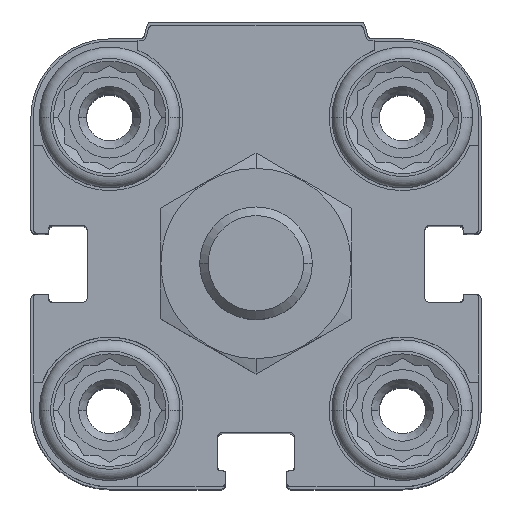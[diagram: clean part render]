
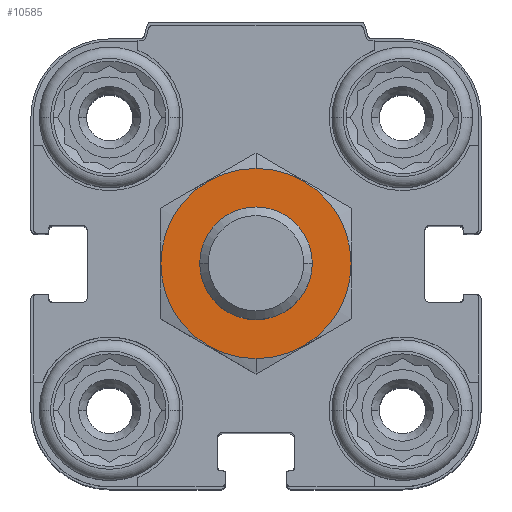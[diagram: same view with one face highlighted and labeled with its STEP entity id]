
A CAD part, top view. The second image highlights one B-rep face of the part: STEP entity #10585.
In plain terms, the highlighted planar face has unit normal (0, 0, 1).
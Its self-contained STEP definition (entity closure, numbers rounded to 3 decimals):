
#4 = DIRECTION ( 'NONE',  ( 0., -1., 0. ) ) ;
#291 = FACE_OUTER_BOUND ( 'NONE', #1753, .T. ) ;
#547 = AXIS2_PLACEMENT_3D ( 'NONE', #18483, #10947, #12750 ) ;
#1729 = CIRCLE ( 'NONE', #10899, 5. ) ;
#1753 = EDGE_LOOP ( 'NONE', ( #9826, #7402 ) ) ;
#2256 = EDGE_LOOP ( 'NONE', ( #11985, #11448 ) ) ;
#2398 = CARTESIAN_POINT ( 'NONE',  ( 0., 0., 14.5 ) ) ;
#2879 = CARTESIAN_POINT ( 'NONE',  ( 0., 0., 14.5 ) ) ;
#2920 = EDGE_CURVE ( 'NONE', #3041, #18364, #11656, .T. ) ;
#3041 = VERTEX_POINT ( 'NONE', #7663 ) ;
#3253 = PLANE ( 'NONE',  #12206 ) ;
#3655 = EDGE_CURVE ( 'NONE', #8691, #13736, #13976, .T. ) ;
#4262 = CARTESIAN_POINT ( 'NONE',  ( 0., -8.45, 14.5 ) ) ;
#5866 = AXIS2_PLACEMENT_3D ( 'NONE', #9861, #11386, #4 ) ;
#6521 = DIRECTION ( 'NONE',  ( 0., -1., 0. ) ) ;
#6813 = AXIS2_PLACEMENT_3D ( 'NONE', #2398, #10825, #6521 ) ;
#7402 = ORIENTED_EDGE ( 'NONE', *, *, #2920, .F. ) ;
#7482 = EDGE_CURVE ( 'NONE', #13736, #8691, #1729, .T. ) ;
#7663 = CARTESIAN_POINT ( 'NONE',  ( 0., 8.45, 14.5 ) ) ;
#7891 = DIRECTION ( 'NONE',  ( 0., -1., 0. ) ) ;
#8343 = CIRCLE ( 'NONE', #6813, 8.45 ) ;
#8691 = VERTEX_POINT ( 'NONE', #15523 ) ;
#8722 = DIRECTION ( 'NONE',  ( 0., 0., -1. ) ) ;
#9411 = DIRECTION ( 'NONE',  ( 0., 0., -1. ) ) ;
#9826 = ORIENTED_EDGE ( 'NONE', *, *, #13104, .F. ) ;
#9861 = CARTESIAN_POINT ( 'NONE',  ( 0., 0., 14.5 ) ) ;
#10310 = CARTESIAN_POINT ( 'NONE',  ( 0., 5., 14.5 ) ) ;
#10585 = ADVANCED_FACE ( 'NONE', ( #291, #11955 ), #3253, .F. ) ;
#10825 = DIRECTION ( 'NONE',  ( 0., 0., -1. ) ) ;
#10899 = AXIS2_PLACEMENT_3D ( 'NONE', #13605, #9411, #7891 ) ;
#10947 = DIRECTION ( 'NONE',  ( 0., 0., -1. ) ) ;
#11386 = DIRECTION ( 'NONE',  ( 0., 0., -1. ) ) ;
#11448 = ORIENTED_EDGE ( 'NONE', *, *, #3655, .T. ) ;
#11656 = CIRCLE ( 'NONE', #5866, 8.45 ) ;
#11955 = FACE_BOUND ( 'NONE', #2256, .T. ) ;
#11985 = ORIENTED_EDGE ( 'NONE', *, *, #7482, .T. ) ;
#12206 = AXIS2_PLACEMENT_3D ( 'NONE', #2879, #8722, #13292 ) ;
#12750 = DIRECTION ( 'NONE',  ( 0., -1., 0. ) ) ;
#13104 = EDGE_CURVE ( 'NONE', #18364, #3041, #8343, .T. ) ;
#13292 = DIRECTION ( 'NONE',  ( 0., -1., 0. ) ) ;
#13605 = CARTESIAN_POINT ( 'NONE',  ( 0., 0., 14.5 ) ) ;
#13736 = VERTEX_POINT ( 'NONE', #10310 ) ;
#13976 = CIRCLE ( 'NONE', #547, 5. ) ;
#15523 = CARTESIAN_POINT ( 'NONE',  ( 0., -5., 14.5 ) ) ;
#18364 = VERTEX_POINT ( 'NONE', #4262 ) ;
#18483 = CARTESIAN_POINT ( 'NONE',  ( 0., 0., 14.5 ) ) ;
